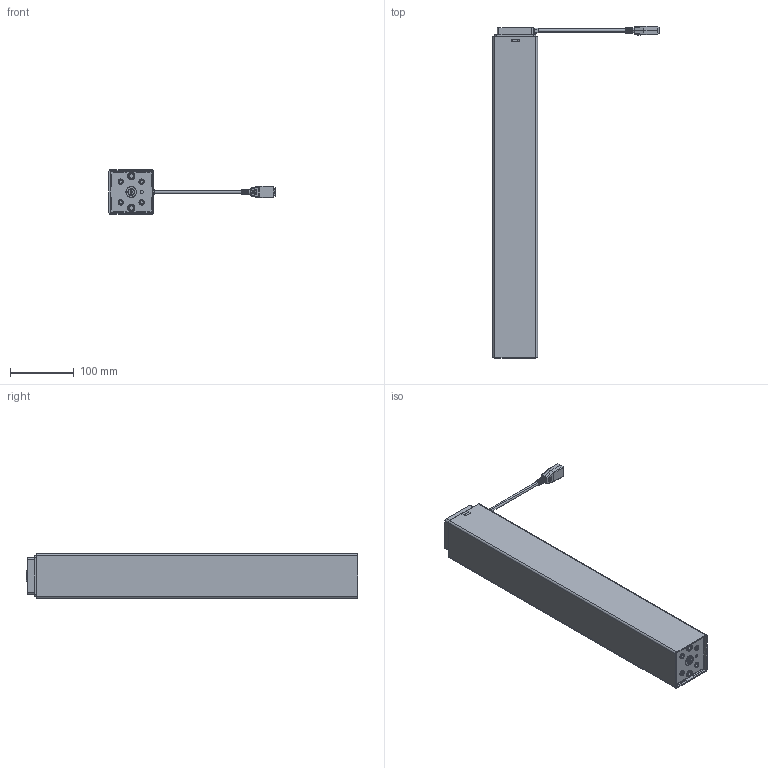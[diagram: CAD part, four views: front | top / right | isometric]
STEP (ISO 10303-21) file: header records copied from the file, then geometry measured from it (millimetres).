
FILE_DESCRIPTION((''),'2;1');
FILE_NAME('DL17-FOLIEMODEL_ASM','2013-10-01T',('mr'),(''),'PRO/ENGINEER BY PARAMETRIC TECHNOLOGY CORPORATION, 2013150','PRO/ENGINEER BY PARAMETRIC TECHNOLOGY CORPORATION, 2013150','');
FILE_SCHEMA(('CONFIG_CONTROL_DESIGN'));
Length unit declared in the file: millimetre
Products named in the file (4): OUTER-DL17; MIDDLE-DL17; INNER-DL17; DL17-FOLIEMODEL_ASM
Assembly tree (3 placements, depth 2):
  DL17-FOLIEMODEL_ASM
    OUTER-DL17
    MIDDLE-DL17
    INNER-DL17
Bounding box: 260.5 x 520.63 x 70 mm (x, y, z)
Volume: 6020721.8 mm3; surface area: 418226.5 mm2
Topology: 3 solids, 3 shells, 1090 faces, 3081 edges, 2012 vertices
Faces by surface type: plane 488, cylinder 327, cone 159, torus 72, extrusion 30, bspline 10, sphere 4
Entity records: 42357 total; most frequent: CARTESIAN_POINT 9331, ORIENTED_EDGE 6150, DIRECTION 5593, EDGE_CURVE 3075, VERTEX_POINT 2012, AXIS2_PLACEMENT_3D 1986, VECTOR 1621, LINE 1591
